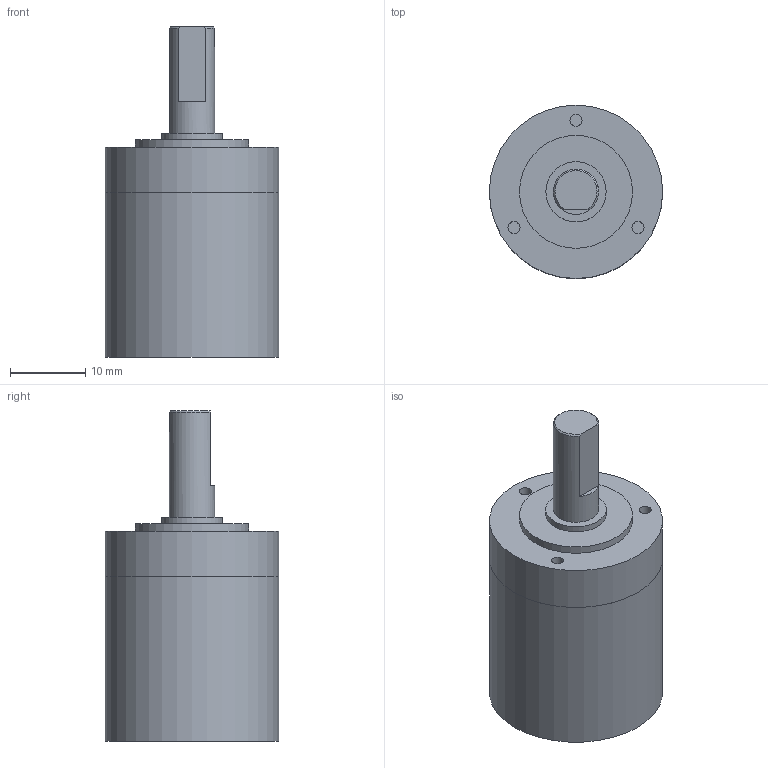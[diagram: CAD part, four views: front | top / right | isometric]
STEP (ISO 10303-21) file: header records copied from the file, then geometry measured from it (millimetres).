
FILE_DESCRIPTION(/* description */ (''),/* implementation_level */ '2;1');
FILE_NAME(/* name */ '23-1_1stage.stp',/* time_stamp */ '2016-09-19T15:45:47+02:00',/* author */ ('DR. FRITZ FAULHABER GmbH & Co. KG'),/* organization */ ('DR. FRITZ FAULHABER GmbH & Co. KG'),/* preprocessor_version */ 'ST-DEVELOPER v16',/* originating_system */ 'SIEMENS PLM Software NX 10.0',/* authorisation */ '');
FILE_SCHEMA (('AUTOMOTIVE_DESIGN { 1 0 10303 214 3 1 1 1 }'));
Length unit declared in the file: millimetre
Products named in the file (1): huge18D0E11Eqv3m
Bounding box: 23 x 23 x 43.9 mm (x, y, z)
Volume: 9029.3 mm3; surface area: 4030.3 mm2
Topology: 1 solids, 1 shells, 39 faces, 64 edges, 43 vertices
Faces by surface type: plane 20, cylinder 17, cone 2
Full cylindrical faces by diameter (mm): 1.6 x3, 6 x1, 8 x1, 8.86 x1, 8.96 x1, 15 x1, 16 x1, 16.54 x1, 20 x2, 21.6 x2, 22.99 x1, 23 x2
Entity records: 840 total; most frequent: DIRECTION 158, CARTESIAN_POINT 129, ORIENTED_EDGE 86, AXIS2_PLACEMENT_3D 77, EDGE_LOOP 73, FACE_BOUND 65, EDGE_CURVE 43, VERTEX_POINT 40
